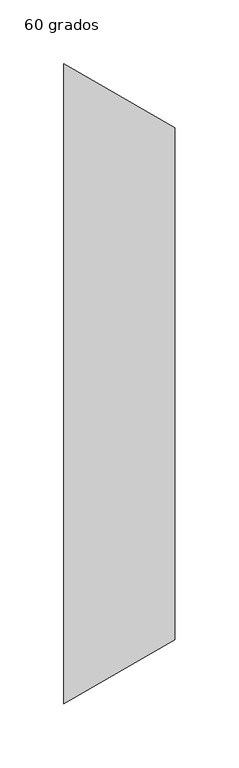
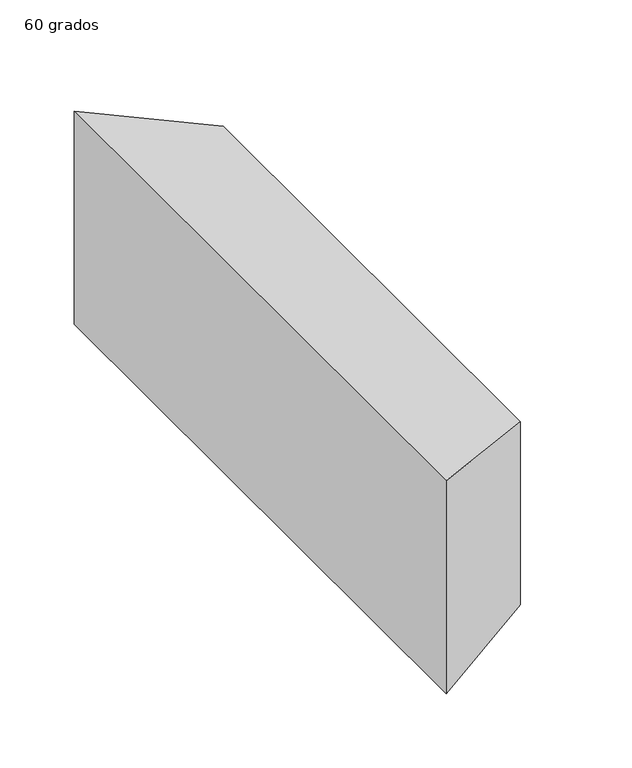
"""IFC4 building model written with IfcOpenShell, lengths in millimetres: duct fitting geometry, M_Transición rectangular - Ángulo : 60 grados."""

from ifc_helpers import new_model, si_unit, origin, place, context, project, spatial, faceted_brep, source, transform, mapped, element, save


def duct_fitting_60_grados_d0e477b4(model_context):
    return source(origin(), model_context, "Body", "Brep", [
        faceted_brep([(86.6025404, -200.0, 75.0), (86.6025404, -200.0, -75.0), (86.6025404, 200.0, -75.0), (86.6025404, 200.0, 75.0), (0.0, -250.0, 87.5), (0.0, 250.0, 87.5), (0.0, 250.0, -87.5), (0.0, -250.0, -87.5)], [[[0, 1, 2, 3]], [[4, 5, 6, 7]], [[4, 7, 1, 0]], [[7, 6, 2, 1]], [[6, 5, 3, 2]], [[5, 4, 0, 3]]]),
    ])


if __name__ == "__main__":
    model = new_model("IFC4")
    model_context = context("Model", 3, world=origin())
    ifc_project = project(units=[si_unit("LENGTHUNIT", "METRE", prefix="MILLI")], contexts=[model_context])
    site = spatial("IfcSite", under=ifc_project)
    building = spatial("IfcBuilding", under=site)
    placement = place(None, origin())
    duct_fitting_60_grados_shape = duct_fitting_60_grados_d0e477b4(model_context)
    element("IfcDuctFitting", 1, ObjectType="M_Transición rectangular - Ángulo : 60 grados", at=placement, inside=building, context=model_context, shape_type="MappedRepresentation", body=[
        mapped(duct_fitting_60_grados_shape, transform((0.0, 0.0, 0.0), x_axis=(1.0, 0.0, 0.0), y_axis=(0.0, 1.0, 0.0), z_axis=(0.0, 0.0, 1.0))),
    ])
    save(model, "model.ifc")
